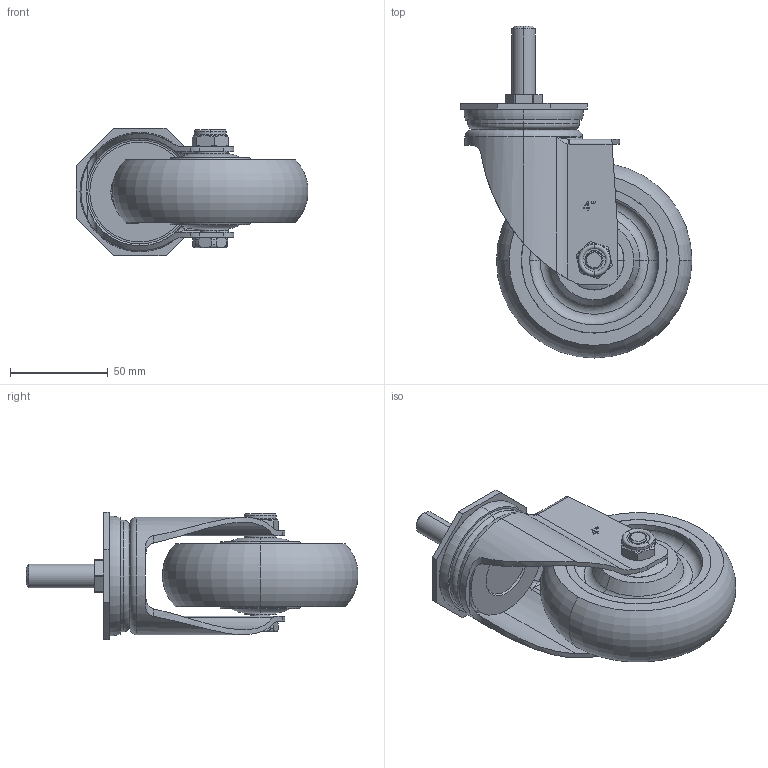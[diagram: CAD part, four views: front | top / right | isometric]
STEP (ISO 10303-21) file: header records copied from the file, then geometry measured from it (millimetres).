
FILE_DESCRIPTION (( 'STEP AP203' ), '1' );
FILE_NAME ('4寸丝扣万向.STEP', '2024-03-19T03:39:21', ( '微软用户' ), ( '微软中国' ), 'SwSTEP 2.0', 'SolidWorks 2008', '' );
FILE_SCHEMA (( 'CONFIG_CONTROL_DESIGN' ));
Length unit declared in the file: millimetre
Products named in the file (6): M10-55蹟裝; M10蹟譫; 4渡佪諶勀砃; 2023-3-8  中型4寸万向支架_默认; 100×32轮子_默认; 丝扣_默认
Assembly tree (5 placements, depth 2):
  4渡佪諶勀砃
    100×32轮子_默认
    M10-55蹟裝
    M10蹟譫
    丝扣_默认
    2023-3-8  中型4寸万向支架_默认
Bounding box: 118.42 x 169.53 x 65.01 mm (x, y, z)
Volume: 296762.8 mm3; surface area: 79282 mm2
Topology: 5 solids, 5 shells, 523 faces, 1324 edges, 859 vertices
Faces by surface type: plane 233, cylinder 122, bspline 94, torus 50, cone 24
Entity records: 23219 total; most frequent: CARTESIAN_POINT 10661, ORIENTED_EDGE 2640, DIRECTION 2200, EDGE_CURVE 1320, VERTEX_POINT 859, AXIS2_PLACEMENT_3D 751, VECTOR 698, LINE 698
